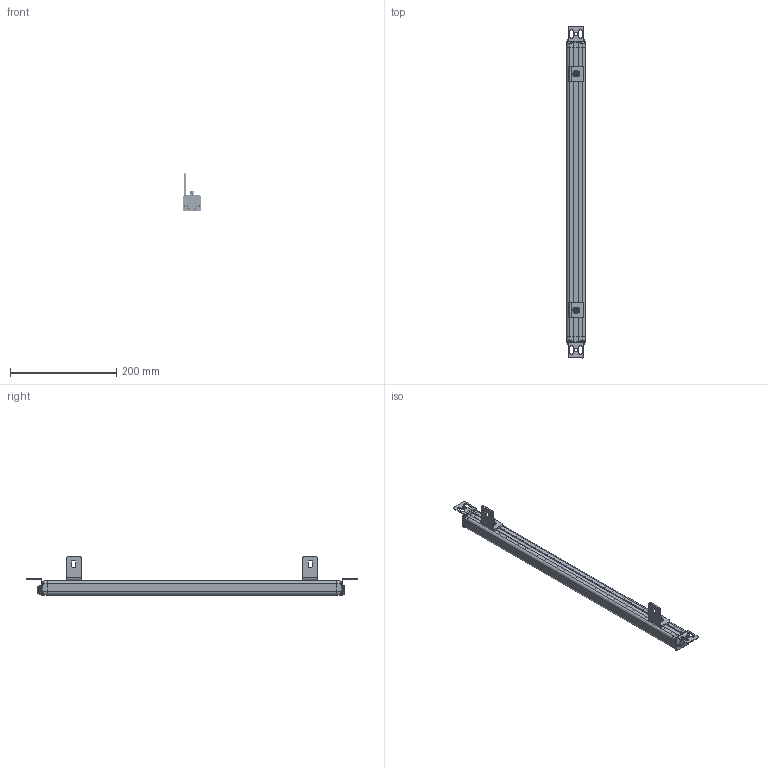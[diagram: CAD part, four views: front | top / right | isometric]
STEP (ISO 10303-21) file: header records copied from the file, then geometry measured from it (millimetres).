
FILE_DESCRIPTION((''),'2;1');
FILE_NAME('ELG-0440_ASM','2021-08-07T09:30:14',('18720616900'),(''),'CREO PARAMETRIC BY PTC INC, 2019010','CREO PARAMETRIC BY PTC INC, 2019010','');
FILE_SCHEMA(('CONFIG_CONTROL_DESIGN'));
Products named in the file (18): ELG--00; ELG--000; ELG000; M3--0001; 3000; 3--0001; ELG_30001_ASM; ST-3-12; L20001; M3-6; L10001; M6-1--00; M6-1-00; M6-8--0001; 00; L1--0001_ASM; ELG-0440_ASM
Assembly tree (34 placements, depth 3):
  ELG-0440_ASM
    ELG--00
    ELG--000
    ELG000
    ELG000
    M3--0001  x4
    ELG_30001_ASM
      3000
      3--0001  x3
    ST-3-12  x8
    L20001  x2
    M3-6  x4
    L1--0001_ASM  x2
      L10001
      M6-1--00
      M6-1-00
      M6-8--0001
      00
Bounding box: 35 x 625 x 73.4 mm (x, y, z)
Volume: 495157.1 mm3; surface area: 137798 mm2
Topology: 36 solids, 36 shells, 3404 faces, 9468 edges, 6167 vertices
Faces by surface type: cylinder 1928, plane 616, bspline 398, cone 353, torus 99, sphere 10
Entity records: 68753 total; most frequent: CARTESIAN_POINT 35026, ORIENTED_EDGE 7326, DIRECTION 6679, EDGE_CURVE 3663, AXIS2_PLACEMENT_3D 2530, VERTEX_POINT 2387, VECTOR 1619, LINE 1619
